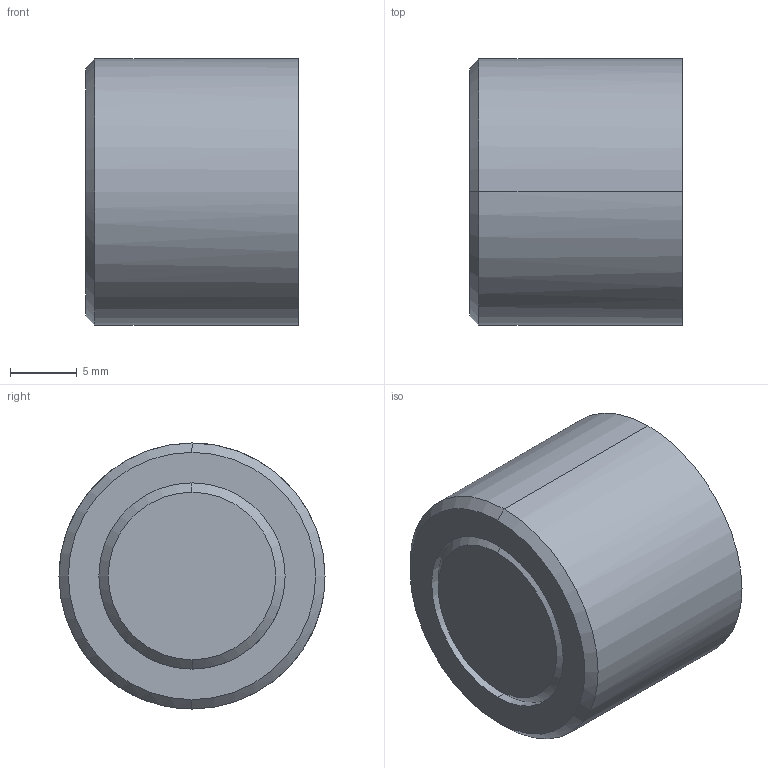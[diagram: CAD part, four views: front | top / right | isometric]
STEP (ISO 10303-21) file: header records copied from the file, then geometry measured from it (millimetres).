
FILE_DESCRIPTION(('CATIA V5 STEP Exchange'),'2;1');
FILE_NAME('C:\Users\Utente\Desktop\IO LAVORO\3D X SITO CF\X SITO\PLASTICA\D375\D375-20-A-DM-FA.stp','2021-03-26T14:41:49+00:00',('none'),('none'),'CATIA Version 5 Release 20 GA (IN-10)','CATIA V5 STEP AP203','none');
FILE_SCHEMA(('CONFIG_CONTROL_DESIGN'));
Length unit declared in the file: millimetre
Products named in the file (1): D375-20-A-DM-FA
Assembly tree (2 placements, depth 2):
  D375-20-A-DM-FA
    #58
    #6504
Bounding box: 16 x 20 x 20 mm (x, y, z)
Volume: 4890.3 mm3; surface area: 3031.5 mm2
Topology: 2 solids, 2 shells, 216 faces, 594 edges, 408 vertices
Faces by surface type: plane 135, cylinder 77, cone 4
Entity records: 7541 total; most frequent: CARTESIAN_POINT 2060, ORIENTED_EDGE 1188, DIRECTION 958, EDGE_CURVE 594, VERTEX_POINT 408, VECTOR 396, LINE 396, AXIS2_PLACEMENT_3D 343
